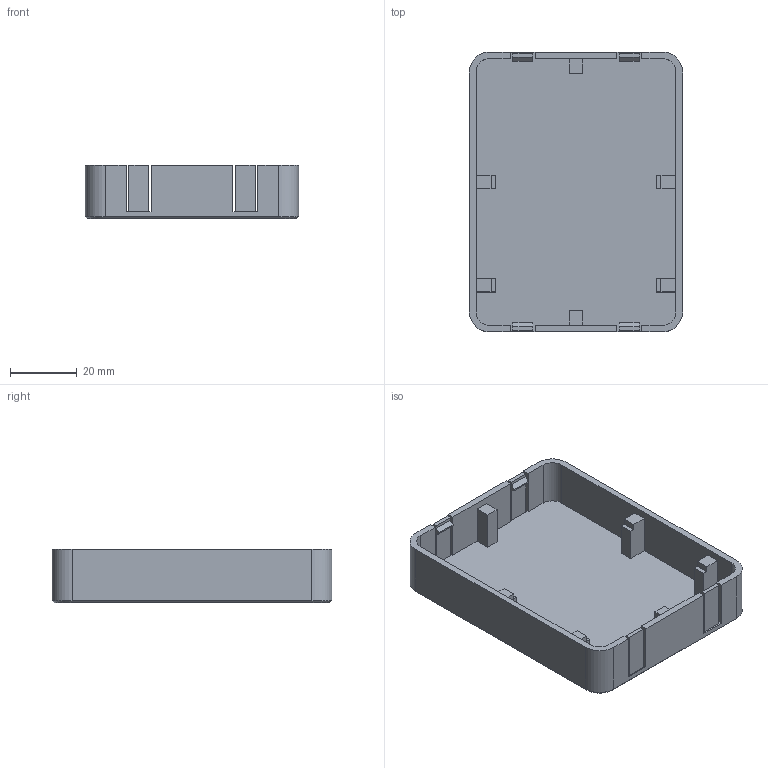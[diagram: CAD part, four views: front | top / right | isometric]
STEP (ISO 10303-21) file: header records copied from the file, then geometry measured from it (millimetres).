
FILE_DESCRIPTION(('Open CASCADE Model'),'2;1');
FILE_NAME('Open CASCADE Shape Model','2026-09-26T12:51:07',('Author'),( 'Open CASCADE'),'Open CASCADE STEP processor 7.8','Open CASCADE 7.8' ,'Unknown');
FILE_SCHEMA(('AUTOMOTIVE_DESIGN { 1 0 10303 214 1 1 1 1 }'));
Length unit declared in the file: millimetre
Products named in the file (1): Open CASCADE STEP translator 7.8 1
Bounding box: 64 x 84 x 16 mm (x, y, z)
Volume: 19561.3 mm3; surface area: 19971.5 mm2
Topology: 1 solids, 1 shells, 114 faces, 316 edges, 208 vertices
Faces by surface type: plane 102, cylinder 8, cone 4
Entity records: 7634 total; most frequent: CARTESIAN_POINT 1403, DIRECTION 1106, LINE 828, VECTOR 828, ORIENTED_EDGE 632, PCURVE 632, DEFINITIONAL_REPRESENTATION 632, EDGE_CURVE 316
